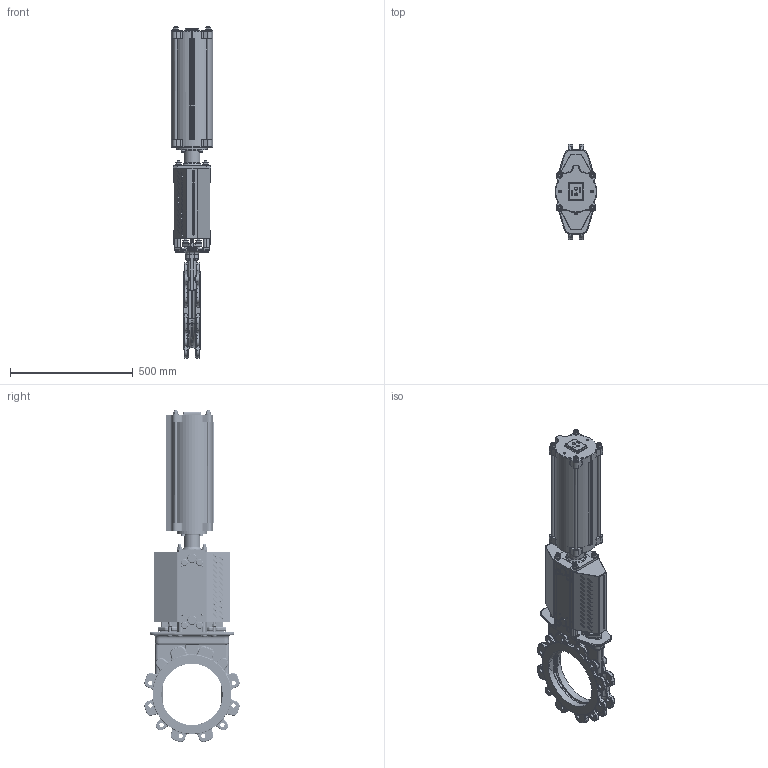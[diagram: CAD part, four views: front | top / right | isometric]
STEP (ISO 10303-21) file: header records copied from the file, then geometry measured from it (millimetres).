
FILE_DESCRIPTION(/* description */ (''),/* implementation_level */ '2;1');
FILE_NAME(/* name */ 'F:\Emir\3D-block special\WB\WB14E-DN250-PN10-FRSC160-320.stp',/* time_stamp */ '2018-06-05T12:25:55+02:00',/* author */ ('emimus'),/* organization */ (''),/* preprocessor_version */ 'ST-DEVELOPER v17',/* originating_system */ 'Autodesk Inventor 2018',/* authorisation */ '');
FILE_SCHEMA (('CONFIG_CONTROL_DESIGN'));
Products named in the file (1): WB14E-DN250-PN10-FRSC160-320
Bounding box: 170 x 387.66 x 1350.83 mm (x, y, z)
Volume: 9294375.1 mm3; surface area: 2426426.8 mm2
Topology: 3 solids, 3 shells, 4146 faces, 10838 edges, 6761 vertices
Faces by surface type: plane 1487, cylinder 1182, bspline 681, torus 511, cone 197, sphere 88
Full cylindrical faces by diameter (mm): 3 x10, 3.6 x4, 4 x6, 4.134 x4, 4.2 x16, 4.5 x4, 4.917 x4, 7 x1, 8 x2, 8.376 x2, 9.5 x4, 10 x11, 10.106 x4, 11.445 x2, 12 x28, 13 x17, 14 x8, 15 x4, 16 x6, 17.294 x24, 17.7 x1, 18 x4, 18.5 x1, 20 x3, 24 x16, 28 x4, 30 x1, 30.1 x2, 34 x1, 35 x1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
Entity records: 149240 total; most frequent: CARTESIAN_POINT 49638, ORIENTED_EDGE 21538, DIRECTION 20227, EDGE_CURVE 10769, AXIS2_PLACEMENT_3D 7859, VERTEX_POINT 6761, EDGE_LOOP 4556, LINE 4509
